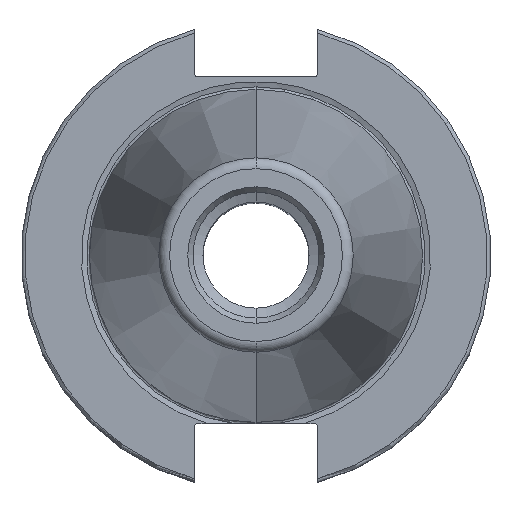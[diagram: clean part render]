
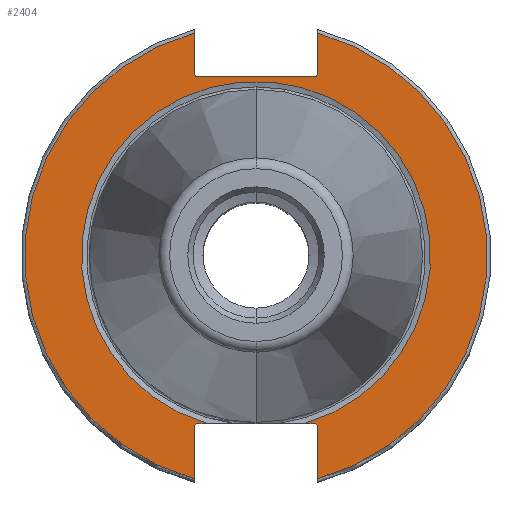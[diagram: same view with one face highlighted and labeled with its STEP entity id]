
A CAD part, top view. The second image highlights one B-rep face of the part: STEP entity #2404.
In plain terms, the highlighted planar face has unit normal (0, 0, 1).
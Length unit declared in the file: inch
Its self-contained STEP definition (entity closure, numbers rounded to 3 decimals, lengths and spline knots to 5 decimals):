
#76 = CARTESIAN_POINT ( 'NONE',  ( 0.51, 0., -0.125 ) ) ;
#251 = CARTESIAN_POINT ( 'NONE',  ( 0.51, 1.83806, -0.125 ) ) ;
#343 = FACE_OUTER_BOUND ( 'NONE', #2668, .T. ) ;
#366 = CARTESIAN_POINT ( 'NONE',  ( 0., 0., -0.125 ) ) ;
#395 = LINE ( 'NONE', #1657, #2763 ) ;
#445 = CARTESIAN_POINT ( 'NONE',  ( -0.48, -1.4125, -0.125 ) ) ;
#462 = AXIS2_PLACEMENT_3D ( 'NONE', #2094, #3802, #4985 ) ;
#505 = ORIENTED_EDGE ( 'NONE', *, *, #1079, .T. ) ;
#524 = CIRCLE ( 'NONE', #886, 0.03 ) ;
#544 = EDGE_CURVE ( 'NONE', #3141, #3024, #3911, .T. ) ;
#551 = VECTOR ( 'NONE', #3159, 39.37008 ) ;
#681 = CARTESIAN_POINT ( 'NONE',  ( -0.51, 0., -0.125 ) ) ;
#687 = CIRCLE ( 'NONE', #5411, 1.43979 ) ;
#840 = CIRCLE ( 'NONE', #1993, 0.03 ) ;
#861 = CARTESIAN_POINT ( 'NONE',  ( 1.9075, 1.4775, -0.125 ) ) ;
#886 = AXIS2_PLACEMENT_3D ( 'NONE', #4661, #2057, #2171 ) ;
#889 = VECTOR ( 'NONE', #5523, 39.37008 ) ;
#906 = ORIENTED_EDGE ( 'NONE', *, *, #4068, .T. ) ;
#926 = VERTEX_POINT ( 'NONE', #4466 ) ;
#939 = LINE ( 'NONE', #2214, #4634 ) ;
#1006 = VERTEX_POINT ( 'NONE', #3291 ) ;
#1079 = EDGE_CURVE ( 'NONE', #4225, #2936, #1975, .T. ) ;
#1150 = CIRCLE ( 'NONE', #4282, 1.9075 ) ;
#1151 = DIRECTION ( 'NONE',  ( 0., 1., 0. ) ) ;
#1176 = ORIENTED_EDGE ( 'NONE', *, *, #544, .F. ) ;
#1188 = PLANE ( 'NONE',  #2163 ) ;
#1204 = VERTEX_POINT ( 'NONE', #4191 ) ;
#1272 = CIRCLE ( 'NONE', #3225, 1.9075 ) ;
#1275 = DIRECTION ( 'NONE',  ( 0., 0., 1. ) ) ;
#1469 = CARTESIAN_POINT ( 'NONE',  ( 0., 0., -0.125 ) ) ;
#1527 = DIRECTION ( 'NONE',  ( 0., 1., 0. ) ) ;
#1574 = DIRECTION ( 'NONE',  ( 0., 1., 0. ) ) ;
#1630 = EDGE_CURVE ( 'NONE', #1204, #4435, #840, .T. ) ;
#1657 = CARTESIAN_POINT ( 'NONE',  ( -0.51, 0., -0.125 ) ) ;
#1673 = DIRECTION ( 'NONE',  ( 1., 0., 0. ) ) ;
#1683 = DIRECTION ( 'NONE',  ( 0., 0., -1. ) ) ;
#1751 = CARTESIAN_POINT ( 'NONE',  ( 0.40209, -1.3825, -0.125 ) ) ;
#1790 = CARTESIAN_POINT ( 'NONE',  ( -0.51, 1.5075, -0.125 ) ) ;
#1854 = CIRCLE ( 'NONE', #5069, 0.03 ) ;
#1883 = ORIENTED_EDGE ( 'NONE', *, *, #2577, .T. ) ;
#1920 = CARTESIAN_POINT ( 'NONE',  ( 0.48, -1.3825, -0.125 ) ) ;
#1975 = LINE ( 'NONE', #3690, #5206 ) ;
#1993 = AXIS2_PLACEMENT_3D ( 'NONE', #445, #3861, #4790 ) ;
#2057 = DIRECTION ( 'NONE',  ( 0., 0., -1. ) ) ;
#2061 = LINE ( 'NONE', #861, #889 ) ;
#2094 = CARTESIAN_POINT ( 'NONE',  ( 0.48, 1.5075, -0.125 ) ) ;
#2134 = EDGE_CURVE ( 'NONE', #3141, #4410, #4997, .T. ) ;
#2139 = CARTESIAN_POINT ( 'NONE',  ( -0.48, -1.3825, -0.125 ) ) ;
#2160 = ORIENTED_EDGE ( 'NONE', *, *, #4344, .F. ) ;
#2163 = AXIS2_PLACEMENT_3D ( 'NONE', #3873, #1275, #5453 ) ;
#2168 = DIRECTION ( 'NONE',  ( 0., -1., 0. ) ) ;
#2171 = DIRECTION ( 'NONE',  ( 0., -1., 0. ) ) ;
#2189 = CARTESIAN_POINT ( 'NONE',  ( -0.51, -1.83806, -0.125 ) ) ;
#2214 = CARTESIAN_POINT ( 'NONE',  ( 0.51, 0., -0.125 ) ) ;
#2243 = ORIENTED_EDGE ( 'NONE', *, *, #2134, .T. ) ;
#2313 = LINE ( 'NONE', #5272, #551 ) ;
#2404 = ADVANCED_FACE ( 'NONE', ( #343 ), #1188, .T. ) ;
#2424 = DIRECTION ( 'NONE',  ( 0., -1., 0. ) ) ;
#2433 = CARTESIAN_POINT ( 'NONE',  ( 0.48, 1.4775, -0.125 ) ) ;
#2454 = DIRECTION ( 'NONE',  ( 0., 0., -1. ) ) ;
#2513 = DIRECTION ( 'NONE',  ( 0., 1., 0. ) ) ;
#2577 = EDGE_CURVE ( 'NONE', #4435, #926, #2313, .T. ) ;
#2614 = EDGE_CURVE ( 'NONE', #2634, #2792, #395, .T. ) ;
#2634 = VERTEX_POINT ( 'NONE', #4646 ) ;
#2668 = EDGE_LOOP ( 'NONE', ( #4232, #2160, #3683, #5139, #1883, #5197, #505, #906, #4549, #3938, #1176, #2243, #4285, #3094 ) ) ;
#2694 = EDGE_CURVE ( 'NONE', #3024, #3799, #1272, .T. ) ;
#2763 = VECTOR ( 'NONE', #2989, 39.37008 ) ;
#2792 = VERTEX_POINT ( 'NONE', #1790 ) ;
#2812 = CARTESIAN_POINT ( 'NONE',  ( 0., 0., -0.125 ) ) ;
#2936 = VERTEX_POINT ( 'NONE', #1920 ) ;
#2989 = DIRECTION ( 'NONE',  ( 0., -1., 0. ) ) ;
#3024 = VERTEX_POINT ( 'NONE', #251 ) ;
#3092 = EDGE_CURVE ( 'NONE', #926, #4225, #687, .T. ) ;
#3094 = ORIENTED_EDGE ( 'NONE', *, *, #3667, .T. ) ;
#3141 = VERTEX_POINT ( 'NONE', #3617 ) ;
#3159 = DIRECTION ( 'NONE',  ( 1., 0., 0. ) ) ;
#3225 = AXIS2_PLACEMENT_3D ( 'NONE', #366, #1683, #2513 ) ;
#3279 = DIRECTION ( 'NONE',  ( 0., 1., 0. ) ) ;
#3291 = CARTESIAN_POINT ( 'NONE',  ( 0.51, -1.4125, -0.125 ) ) ;
#3526 = VERTEX_POINT ( 'NONE', #2189 ) ;
#3617 = CARTESIAN_POINT ( 'NONE',  ( 0.51, 1.5075, -0.125 ) ) ;
#3623 = DIRECTION ( 'NONE',  ( 0., 0., -1. ) ) ;
#3667 = EDGE_CURVE ( 'NONE', #4677, #2792, #1854, .T. ) ;
#3683 = ORIENTED_EDGE ( 'NONE', *, *, #4965, .T. ) ;
#3690 = CARTESIAN_POINT ( 'NONE',  ( 1.9075, -1.3825, -0.125 ) ) ;
#3799 = VERTEX_POINT ( 'NONE', #5388 ) ;
#3802 = DIRECTION ( 'NONE',  ( 0., 0., -1. ) ) ;
#3810 = CARTESIAN_POINT ( 'NONE',  ( -0.48, 1.5075, -0.125 ) ) ;
#3861 = DIRECTION ( 'NONE',  ( 0., 0., -1. ) ) ;
#3873 = CARTESIAN_POINT ( 'NONE',  ( 1.9075, 0., -0.125 ) ) ;
#3911 = LINE ( 'NONE', #76, #3958 ) ;
#3927 = VECTOR ( 'NONE', #1527, 39.37008 ) ;
#3938 = ORIENTED_EDGE ( 'NONE', *, *, #2694, .F. ) ;
#3958 = VECTOR ( 'NONE', #1151, 39.37008 ) ;
#4068 = EDGE_CURVE ( 'NONE', #2936, #1006, #524, .T. ) ;
#4191 = CARTESIAN_POINT ( 'NONE',  ( -0.51, -1.4125, -0.125 ) ) ;
#4225 = VERTEX_POINT ( 'NONE', #1751 ) ;
#4232 = ORIENTED_EDGE ( 'NONE', *, *, #2614, .F. ) ;
#4282 = AXIS2_PLACEMENT_3D ( 'NONE', #1469, #3623, #3279 ) ;
#4285 = ORIENTED_EDGE ( 'NONE', *, *, #4704, .F. ) ;
#4344 = EDGE_CURVE ( 'NONE', #3526, #2634, #1150, .T. ) ;
#4410 = VERTEX_POINT ( 'NONE', #2433 ) ;
#4435 = VERTEX_POINT ( 'NONE', #2139 ) ;
#4466 = CARTESIAN_POINT ( 'NONE',  ( -0.40209, -1.3825, -0.125 ) ) ;
#4477 = EDGE_CURVE ( 'NONE', #1006, #3799, #939, .T. ) ;
#4510 = LINE ( 'NONE', #681, #3927 ) ;
#4549 = ORIENTED_EDGE ( 'NONE', *, *, #4477, .T. ) ;
#4634 = VECTOR ( 'NONE', #2168, 39.37008 ) ;
#4646 = CARTESIAN_POINT ( 'NONE',  ( -0.51, 1.83806, -0.125 ) ) ;
#4661 = CARTESIAN_POINT ( 'NONE',  ( 0.48, -1.4125, -0.125 ) ) ;
#4677 = VERTEX_POINT ( 'NONE', #4690 ) ;
#4690 = CARTESIAN_POINT ( 'NONE',  ( -0.48, 1.4775, -0.125 ) ) ;
#4704 = EDGE_CURVE ( 'NONE', #4677, #4410, #2061, .T. ) ;
#4790 = DIRECTION ( 'NONE',  ( 0., -1., 0. ) ) ;
#4965 = EDGE_CURVE ( 'NONE', #3526, #1204, #4510, .T. ) ;
#4985 = DIRECTION ( 'NONE',  ( 0., -1., 0. ) ) ;
#4997 = CIRCLE ( 'NONE', #462, 0.03 ) ;
#5069 = AXIS2_PLACEMENT_3D ( 'NONE', #3810, #2454, #2424 ) ;
#5139 = ORIENTED_EDGE ( 'NONE', *, *, #1630, .T. ) ;
#5197 = ORIENTED_EDGE ( 'NONE', *, *, #3092, .T. ) ;
#5206 = VECTOR ( 'NONE', #1673, 39.37008 ) ;
#5272 = CARTESIAN_POINT ( 'NONE',  ( 1.9075, -1.3825, -0.125 ) ) ;
#5388 = CARTESIAN_POINT ( 'NONE',  ( 0.51, -1.83806, -0.125 ) ) ;
#5389 = DIRECTION ( 'NONE',  ( 0., 0., -1. ) ) ;
#5411 = AXIS2_PLACEMENT_3D ( 'NONE', #2812, #5389, #1574 ) ;
#5453 = DIRECTION ( 'NONE',  ( 0., -1., 0. ) ) ;
#5523 = DIRECTION ( 'NONE',  ( 1., 0., 0. ) ) ;
